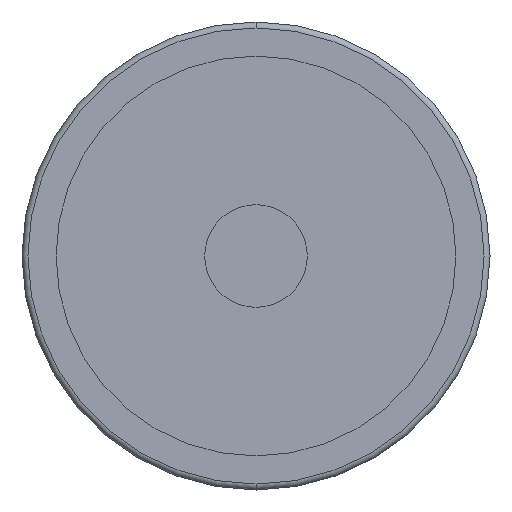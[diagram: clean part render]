
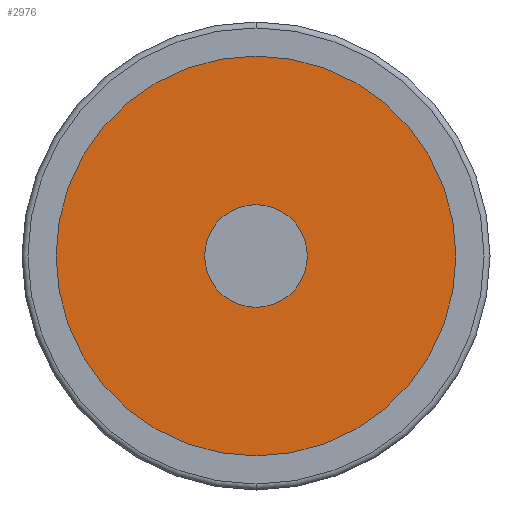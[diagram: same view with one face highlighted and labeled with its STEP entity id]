
A CAD part, front view. The second image highlights one B-rep face of the part: STEP entity #2976.
In plain terms, the highlighted planar face has unit normal (0, -1, 0).
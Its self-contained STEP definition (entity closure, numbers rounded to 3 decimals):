
#12 = FACE_OUTER_BOUND ( 'NONE', #182, .T. ) ;
#21 = ORIENTED_EDGE ( 'NONE', *, *, #2306, .F. ) ;
#93 = DIRECTION ( 'NONE',  ( 1., 0., 0. ) ) ;
#182 = EDGE_LOOP ( 'NONE', ( #1946, #2330 ) ) ;
#424 = AXIS2_PLACEMENT_3D ( 'NONE', #2653, #622, #1672 ) ;
#536 = FACE_BOUND ( 'NONE', #3031, .T. ) ;
#612 = CIRCLE ( 'NONE', #424, 8. ) ;
#622 = DIRECTION ( 'NONE',  ( 0., -1., 0. ) ) ;
#648 = VERTEX_POINT ( 'NONE', #1899 ) ;
#721 = EDGE_CURVE ( 'NONE', #993, #950, #1717, .T. ) ;
#755 = DIRECTION ( 'NONE',  ( 1., 0., 0. ) ) ;
#786 = PLANE ( 'NONE',  #1608 ) ;
#814 = CIRCLE ( 'NONE', #2140, 34.25 ) ;
#911 = CARTESIAN_POINT ( 'NONE',  ( 0., 4.5, 0. ) ) ;
#950 = VERTEX_POINT ( 'NONE', #2086 ) ;
#957 = CARTESIAN_POINT ( 'NONE',  ( -8., 4.5, 0. ) ) ;
#993 = VERTEX_POINT ( 'NONE', #1317 ) ;
#1184 = DIRECTION ( 'NONE',  ( 0., -1., 0. ) ) ;
#1317 = CARTESIAN_POINT ( 'NONE',  ( -34.25, 4.5, 0. ) ) ;
#1420 = DIRECTION ( 'NONE',  ( 0., -1., 0. ) ) ;
#1453 = AXIS2_PLACEMENT_3D ( 'NONE', #911, #1420, #2423 ) ;
#1608 = AXIS2_PLACEMENT_3D ( 'NONE', #2234, #2995, #755 ) ;
#1672 = DIRECTION ( 'NONE',  ( 1., 0., 0. ) ) ;
#1717 = CIRCLE ( 'NONE', #1453, 34.25 ) ;
#1899 = CARTESIAN_POINT ( 'NONE',  ( 8., 4.5, 0. ) ) ;
#1946 = ORIENTED_EDGE ( 'NONE', *, *, #721, .T. ) ;
#2038 = DIRECTION ( 'NONE',  ( 0., -1., 0. ) ) ;
#2086 = CARTESIAN_POINT ( 'NONE',  ( 34.25, 4.5, 0. ) ) ;
#2140 = AXIS2_PLACEMENT_3D ( 'NONE', #2401, #1184, #2677 ) ;
#2228 = CIRCLE ( 'NONE', #2445, 8. ) ;
#2234 = CARTESIAN_POINT ( 'NONE',  ( -34.25, 4.5, 0. ) ) ;
#2306 = EDGE_CURVE ( 'NONE', #648, #2815, #612, .T. ) ;
#2330 = ORIENTED_EDGE ( 'NONE', *, *, #2450, .T. ) ;
#2346 = CARTESIAN_POINT ( 'NONE',  ( 0., 4.5, 0. ) ) ;
#2395 = EDGE_CURVE ( 'NONE', #2815, #648, #2228, .T. ) ;
#2401 = CARTESIAN_POINT ( 'NONE',  ( 0., 4.5, 0. ) ) ;
#2423 = DIRECTION ( 'NONE',  ( 1., 0., 0. ) ) ;
#2445 = AXIS2_PLACEMENT_3D ( 'NONE', #2346, #2038, #93 ) ;
#2450 = EDGE_CURVE ( 'NONE', #950, #993, #814, .T. ) ;
#2571 = ORIENTED_EDGE ( 'NONE', *, *, #2395, .F. ) ;
#2653 = CARTESIAN_POINT ( 'NONE',  ( 0., 4.5, 0. ) ) ;
#2677 = DIRECTION ( 'NONE',  ( 1., 0., 0. ) ) ;
#2815 = VERTEX_POINT ( 'NONE', #957 ) ;
#2976 = ADVANCED_FACE ( 'NONE', ( #12, #536 ), #786, .T. ) ;
#2995 = DIRECTION ( 'NONE',  ( 0., -1., 0. ) ) ;
#3031 = EDGE_LOOP ( 'NONE', ( #21, #2571 ) ) ;
